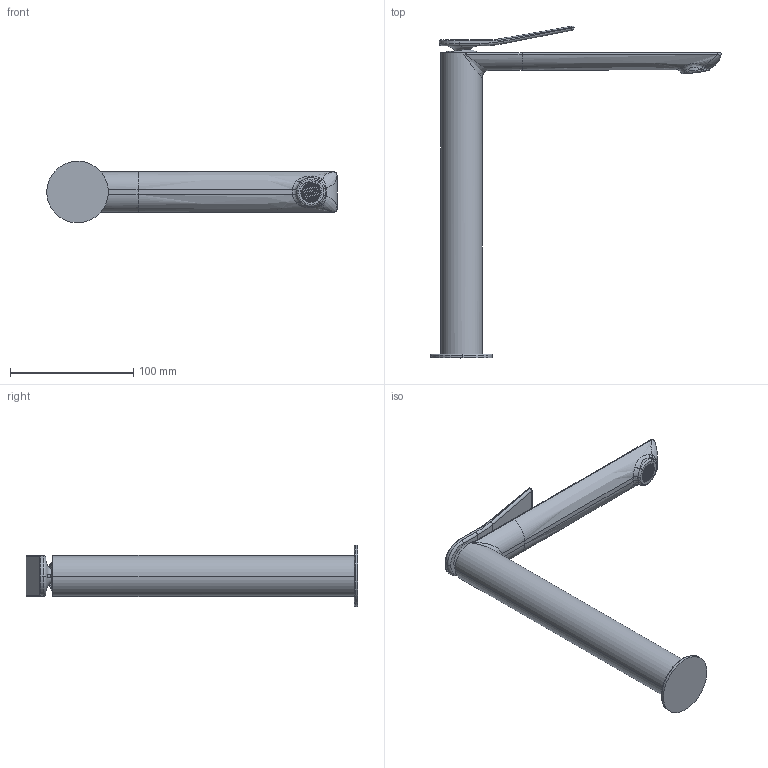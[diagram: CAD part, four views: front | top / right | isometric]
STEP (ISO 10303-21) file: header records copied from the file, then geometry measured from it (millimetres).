
FILE_DESCRIPTION (( 'STEP AP214' ), '1' );
FILE_NAME ('85301810 x architetti.STEP', '2026-02-24T08:42:13', ( '' ), ( '' ), 'SwSTEP 2.0', 'SolidWorks 2020', '' );
FILE_SCHEMA (( 'AUTOMOTIVE_DESIGN' ));
Length unit declared in the file: millimetre
Products named in the file (1): 85301810 x architetti
Bounding box: 235.78 x 269.5 x 49.95 mm (x, y, z)
Surface area: 71099.2 mm2 (no closed solid volume)
Topology: 0 solids, 11 shells, 4117 faces, 10520 edges, 6781 vertices
Faces by surface type: plane 3011, cylinder 445, cone 421, bspline 216, torus 16, sphere 8
Entity records: 184988 total; most frequent: CARTESIAN_POINT 52804, ORIENTED_EDGE 20930, DIRECTION 13014, EDGE_CURVE 10512, VERTEX_POINT 6781, B_SPLINE_CURVE_WITH_KNOTS 5348, EDGE_LOOP 4495, AXIS2_PLACEMENT_3D 4393
